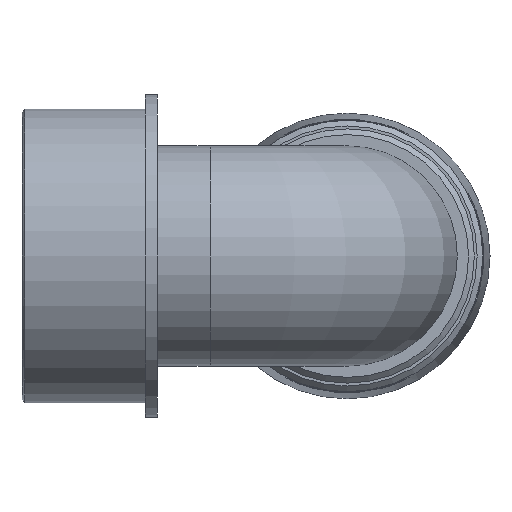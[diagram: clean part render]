
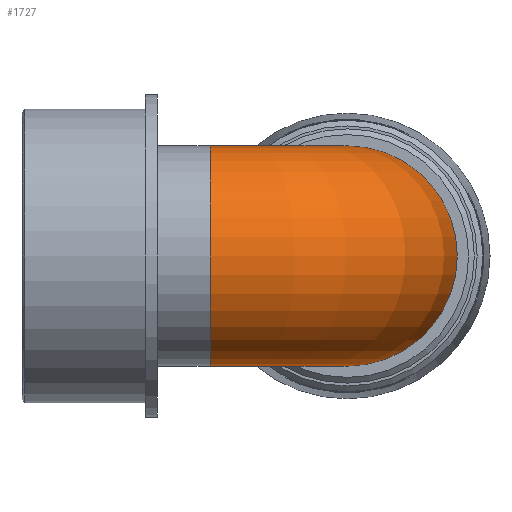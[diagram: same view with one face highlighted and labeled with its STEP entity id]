
A CAD part, left-side view. The second image highlights one B-rep face of the part: STEP entity #1727.
In plain terms, the highlighted toroidal (fillet/blend) face has major radius 27.805 mm and minor radius 22.355 mm.
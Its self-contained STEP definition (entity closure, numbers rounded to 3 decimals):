
#348=FACE_BOUND('',#496,.T.);
#378=FACE_OUTER_BOUND('',#495,.T.);
#495=EDGE_LOOP('',(#1134));
#496=EDGE_LOOP('',(#1135));
#627=CIRCLE('',#1844,22.355);
#631=CIRCLE('',#1850,22.355);
#724=VERTEX_POINT('',#2554);
#728=VERTEX_POINT('',#2564);
#885=EDGE_CURVE('',#724,#724,#627,.T.);
#889=EDGE_CURVE('',#728,#728,#631,.T.);
#1134=ORIENTED_EDGE('',*,*,#889,.F.);
#1135=ORIENTED_EDGE('',*,*,#885,.T.);
#1605=TOROIDAL_SURFACE('',#1849,27.805,22.355);
#1727=ADVANCED_FACE('',(#378,#348),#1605,.T.);
#1844=AXIS2_PLACEMENT_3D('',#2555,#2065,#2066);
#1849=AXIS2_PLACEMENT_3D('',#2563,#2075,#2076);
#1850=AXIS2_PLACEMENT_3D('',#2565,#2077,#2078);
#2065=DIRECTION('center_axis',(0.,-1.,0.));
#2066=DIRECTION('ref_axis',(-1.,0.,0.));
#2075=DIRECTION('center_axis',(0.,0.,1.));
#2076=DIRECTION('ref_axis',(1.,0.,0.));
#2077=DIRECTION('center_axis',(1.,0.,0.));
#2078=DIRECTION('ref_axis',(0.,-1.,0.));
#2554=CARTESIAN_POINT('',(22.355,27.805,0.));
#2555=CARTESIAN_POINT('Origin',(0.,27.805,0.));
#2563=CARTESIAN_POINT('Origin',(27.805,27.805,0.));
#2564=CARTESIAN_POINT('',(27.805,22.355,0.));
#2565=CARTESIAN_POINT('Origin',(27.805,0.,0.));
